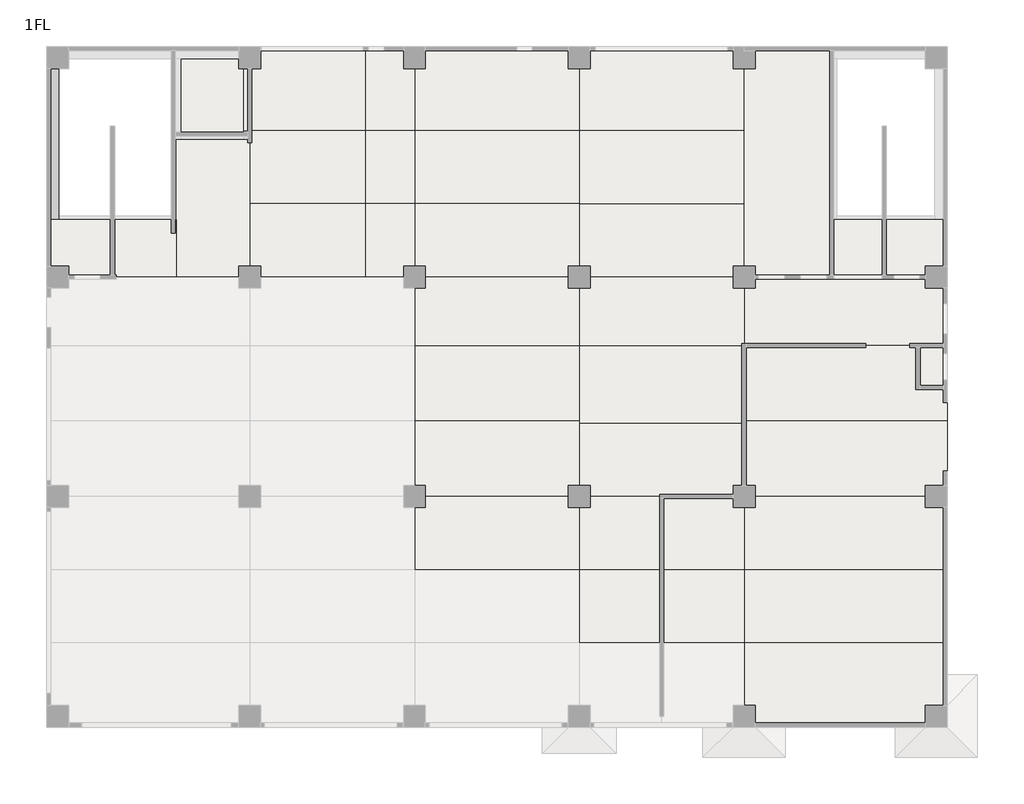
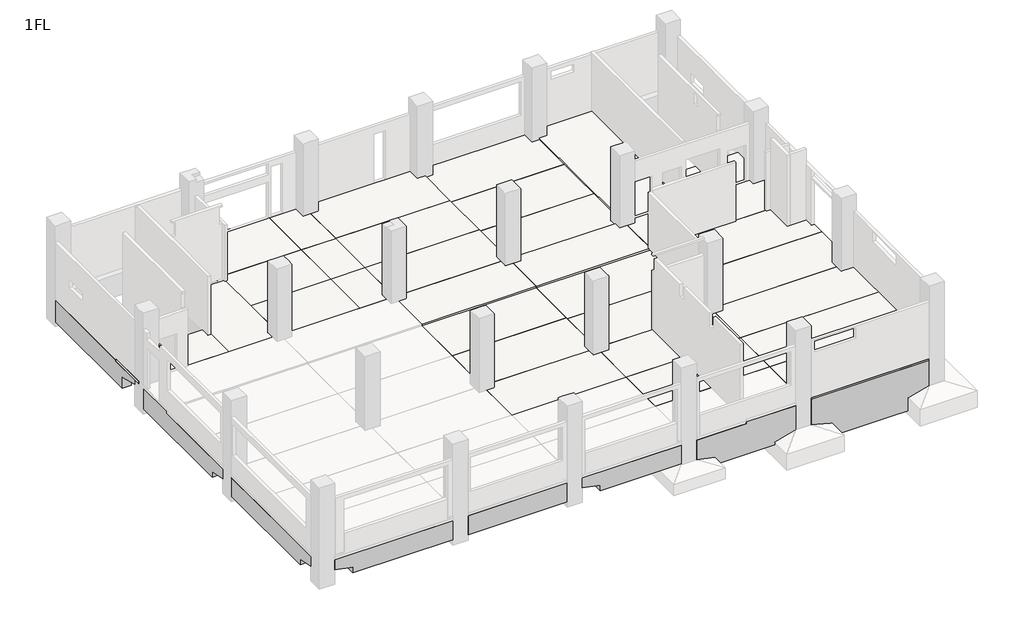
# One storey, part 2 of 4: 41 slabs, 8 beams.
"""IFC4 building model written with IfcOpenShell, lengths in millimetres."""

from ifc_helpers import new_model, si_unit, frame, origin, place, context, project, spatial, polyline, outline, extrude, faceted_brep, element, save

model = new_model("IFC4")

# Units and contexts
model_context = context("Model", 3, world=origin())
ifc_project = project(units=[si_unit("LENGTHUNIT", "METRE", prefix="MILLI")], contexts=[model_context])

# Site, building, storey
site = spatial("IfcSite", under=ifc_project)
building = spatial("IfcBuilding", under=site)
storey = spatial("IfcBuildingStorey", under=building, Name="1FL", Elevation=0.0)

# Beams
placement = place(None, origin())
element("IfcBeam", 1, ObjectType="RC_B : FG1", at=placement, inside=storey, context=model_context, shape_type="SweptSolid", body=[
    extrude(outline(polyline([(-1300.0, 6600.0), (-250.0, 6600.0), (-250.0, 400.0), (-800.0, 400.0), (-1000.0, 1350.0), (-1300.0, 1350.0), (-1300.0, 6600.0)])), frame((0.0, -400.0, 0.0), z_axis=(0.0, 1.0, 0.0), x_axis=(0.0, 0.0, 1.0)), (0.0, 0.0, 1.0), 450.0),
])
element("IfcBeam", 2, ObjectType="RC_B : FG1", at=placement, inside=storey, context=model_context, shape_type="SweptSolid", body=[
    extrude(outline(polyline([(7400.0, -400.0), (7400.0, 50.0), (12600.0, 50.0), (12600.0, -400.0), (7400.0, -400.0)])), frame((0.0, 0.0, -1300.0), z_axis=(0.0, 0.0, 1.0), x_axis=(1.0, 0.0, 0.0)), (0.0, 0.0, 1.0), 1050.0),
])
element("IfcBeam", 3, ObjectType="RC_B : FG1", at=placement, inside=storey, context=model_context, shape_type="SweptSolid", body=[
    extrude(outline(polyline([(-1300.0, 18600.0), (-250.0, 18600.0), (-250.0, 13400.0), (-800.0, 13400.0), (-1000.0, 14350.0), (-1300.0, 14350.0), (-1300.0, 18600.0)])), frame((0.0, -400.0, 0.0), z_axis=(0.0, 1.0, 0.0), x_axis=(0.0, 0.0, 1.0)), (0.0, 0.0, 1.0), 450.0),
])
element("IfcBeam", 4, ObjectType="RC_B : FG11", at=placement, inside=storey, context=model_context, shape_type="Brep", body=[
    faceted_brep([(-400.0, 7600.0, -250.0), (-400.0, 7600.0, -1300.0), (-400.0, 1350.0, -1300.0), (-400.0, 1350.0, -1000.0), (-400.0, 400.0, -800.0), (-400.0, 400.0, -250.0), (-400.0, 2664.0, -250.0), (-400.0, 5328.0, -250.0), (50.0, 7600.0, -1300.0), (50.0, 1350.0, -1300.0), (50.0, 7600.0, -250.0), (50.0, 5505.0, -250.0), (50.0, 5155.0, -250.0), (50.0, 2835.0, -250.0), (50.0, 2485.0, -250.0), (50.0, 400.0, -250.0), (50.0, 400.0, -800.0), (50.0, 1350.0, -1000.0)], [[[0, 1, 2, 3, 4, 5, 6, 7]], [[1, 8, 9, 2]], [[10, 11, 12, 13, 14, 15, 16, 17, 9, 8]], [[15, 5, 4, 16]], [[0, 10, 8, 1]], [[5, 15, 14, 13, 12, 11, 10, 0, 7, 6]], [[17, 3, 2, 9]], [[3, 17, 16, 4]]]),
])
element("IfcBeam", 5, ObjectType="RC_B : FG11", at=placement, inside=storey, context=model_context, shape_type="Brep", body=[
    faceted_brep([(-400.0, 15600.0, -160.0), (-400.0, 15600.0, -1300.0), (-400.0, 9350.0, -1300.0), (-400.0, 9350.0, -1000.0), (-400.0, 8400.0, -800.0), (-400.0, 8400.0, -250.0), (-400.0, 10748.0, -250.0), (-400.0, 13496.0, -250.0), (-400.0, 13496.0, -160.0), (50.0, 15600.0, -1300.0), (50.0, 9350.0, -1300.0), (50.0, 13496.0, -250.0), (50.0, 13325.0, -250.0), (50.0, 10925.0, -250.0), (50.0, 10575.0, -250.0), (50.0, 8400.0, -250.0), (50.0, 8400.0, -800.0), (50.0, 9350.0, -1000.0), (50.0, 15600.0, -160.0), (50.0, 13675.0, -160.0), (50.0, 13496.0, -160.0)], [[[0, 1, 2, 3, 4, 5, 6, 7, 8]], [[1, 9, 10, 2]], [[11, 12, 13, 14, 15, 16, 17, 10, 9, 18, 19, 20]], [[15, 5, 4, 16]], [[0, 18, 9, 1]], [[5, 15, 14, 13, 12, 11, 7, 6]], [[7, 11, 20, 8]], [[20, 19, 18, 0, 8]], [[17, 3, 2, 10]], [[3, 17, 16, 4]]]),
])
element("IfcBeam", 6, ObjectType="RC_B : FG11", at=placement, inside=storey, context=model_context, shape_type="Brep", body=[
    faceted_brep([(-400.0, 23600.0, -100.0), (-400.0, 23600.0, -1300.0), (-400.0, 17500.0, -1300.0), (-400.0, 17500.0, -700.0), (-400.0, 16400.0, -400.0), (-400.0, 16400.0, -160.0), (-400.0, 18100.0, -160.0), (-400.0, 18100.0, -100.0), (50.0, 23600.0, -1300.0), (50.0, 17500.0, -1300.0), (50.0, 23600.0, -100.0), (50.0, 18225.0, -100.0), (50.0, 18100.0, -100.0), (50.0, 18100.0, -160.0), (50.0, 17975.0, -160.0), (50.0, 16400.0, -160.0), (50.0, 16400.0, -400.0), (50.0, 17500.0, -700.0), (-250.0, 23600.0, -100.0), (-250.0, 18100.0, -100.0)], [[[0, 1, 2, 3, 4, 5, 6, 7]], [[1, 8, 9, 2]], [[8, 10, 11, 12, 13, 14, 15, 16, 17, 9]], [[10, 18, 0, 7, 19, 12, 11]], [[15, 5, 4, 16]], [[1, 0, 18, 10, 8]], [[13, 6, 5, 15, 14]], [[6, 13, 12, 19, 7]], [[17, 3, 2, 9]], [[3, 17, 16, 4]]]),
])
element("IfcBeam", 7, ObjectType="RC_B : FG3", at=placement, inside=storey, context=model_context, shape_type="Brep", body=[
    faceted_brep([(22075.0, 50.0, -160.0), (24600.0, 50.0, -160.0), (24600.0, 50.0, -1750.0), (20350.0, 50.0, -1750.0), (20350.0, 50.0, -1550.0), (19400.0, 50.0, -1350.0), (19400.0, 50.0, -250.0), (22075.0, 50.0, -250.0), (24600.0, 0.0, -1950.0), (24600.0, -400.0, -1950.0), (20350.0, -400.0, -1950.0), (20350.0, 0.0, -1950.0), (22000.0, -400.0, -250.0), (19400.0, -400.0, -250.0), (19400.0, -400.0, -1350.0), (20350.0, -400.0, -1550.0), (24600.0, -400.0, -160.0), (22000.0, -400.0, -160.0), (24600.0, 0.0, -1750.0), (22000.0, 0.0, -250.0), (22075.0, 0.0, -250.0), (22000.0, 0.0, -160.0), (22075.0, 0.0, -160.0), (20350.0, 0.0, -1750.0)], [[[0, 1, 2, 3, 4, 5, 6, 7]], [[8, 9, 10, 11]], [[12, 13, 14, 15, 10, 9, 16, 17]], [[13, 6, 5, 14]], [[1, 16, 9, 8, 18, 2]], [[6, 13, 12, 19, 20, 7]], [[19, 12, 17, 21]], [[7, 20, 22, 0]], [[20, 19, 21, 22]], [[2, 18, 23, 3]], [[18, 8, 11, 23]], [[1, 0, 22, 21, 17, 16]], [[15, 4, 3, 23, 11, 10]], [[4, 15, 14, 5]]]),
])
element("IfcBeam", 8, ObjectType="RC_B : FG4", at=placement, inside=storey, context=model_context, shape_type="Brep", body=[
    faceted_brep([(25400.0, 50.0, -100.0), (31600.0, 50.0, -100.0), (31600.0, 50.0, -160.0), (31600.0, 50.0, -2300.0), (25400.0, 50.0, -2300.0), (25400.0, 50.0, -160.0), (31600.0, -400.0, -2500.0), (25400.0, -400.0, -2500.0), (25400.0, 0.0, -2500.0), (31600.0, 0.0, -2500.0), (25400.0, -400.0, -100.0), (31600.0, -400.0, -100.0), (25400.0, 0.0, -2300.0), (31600.0, 0.0, -2300.0)], [[[0, 1, 2, 3, 4, 5]], [[6, 7, 8, 9]], [[10, 7, 6, 11]], [[0, 10, 11, 1]], [[7, 10, 0, 5, 4, 12, 8]], [[11, 6, 9, 13, 3, 2, 1]], [[13, 12, 4, 3]], [[12, 13, 9, 8]]]),
])

# Slabs
element("IfcSlab", 9, ObjectType="FS1", at=placement, inside=storey, context=model_context, shape_type="Brep", body=[
    faceted_brep([(19000.0, 0.0, -1950.0), (19000.0, 400.0, -1950.0), (19000.0, 1350.0, -1950.0), (19000.0, 7600.0, -1950.0), (19000.0, 8000.0, -1950.0), (19400.0, 8000.0, -1950.0), (20650.0, 8000.0, -1950.0), (24600.0, 8000.0, -1950.0), (24775.0, 8000.0, -1950.0), (24775.0, 0.0, -1950.0), (24600.0, 0.0, -1950.0), (20350.0, 0.0, -1950.0), (19400.0, 0.0, -1950.0), (19000.0, 8000.0, -1750.0), (19000.0, 7600.0, -1750.0), (19000.0, 1350.0, -1750.0), (19000.0, 400.0, -1750.0), (19000.0, 0.0, -1750.0), (19400.0, 0.0, -1750.0), (20350.0, 0.0, -1750.0), (24600.0, 0.0, -1750.0), (24775.0, 0.0, -1750.0), (24775.0, 8000.0, -1750.0), (24600.0, 8000.0, -1750.0), (20650.0, 8000.0, -1750.0), (19400.0, 8000.0, -1750.0)], [[[0, 1, 2, 3, 4, 5, 6, 7, 8, 9, 10, 11, 12]], [[13, 14, 15, 16, 17, 18, 19, 20, 21, 22, 23, 24, 25]], [[17, 0, 12, 11, 10, 9, 21, 20, 19, 18]], [[4, 3, 2, 1, 0, 17, 16, 15, 14, 13]], [[4, 13, 25, 24, 23, 22, 8, 7, 6, 5]], [[9, 8, 22, 21]]]),
])
element("IfcSlab", 10, ObjectType="FS1", at=placement, inside=storey, context=model_context, shape_type="Brep", body=[
    faceted_brep([(13000.0, 16000.0, -1950.0), (12600.0, 16000.0, -1950.0), (7400.0, 16000.0, -1950.0), (7000.0, 16000.0, -1950.0), (7000.0, 16400.0, -1950.0), (7000.0, 17650.0, -1950.0), (7000.0, 22500.0, -1950.0), (7000.0, 24000.0, -1950.0), (8500.0, 24000.0, -1950.0), (11650.0, 24000.0, -1950.0), (12600.0, 24000.0, -1950.0), (13000.0, 24000.0, -1950.0), (13000.0, 23600.0, -1950.0), (13000.0, 17650.0, -1950.0), (13000.0, 16000.0, -1750.0), (13000.0, 17650.0, -1750.0), (13000.0, 23600.0, -1750.0), (13000.0, 24000.0, -1750.0), (12600.0, 24000.0, -1750.0), (11650.0, 24000.0, -1750.0), (8500.0, 24000.0, -1750.0), (7000.0, 24000.0, -1750.0), (7000.0, 22500.0, -1750.0), (7000.0, 17650.0, -1750.0), (7000.0, 16400.0, -1750.0), (7000.0, 16000.0, -1750.0), (7400.0, 16000.0, -1750.0), (12600.0, 16000.0, -1750.0)], [[[0, 1, 2, 3, 4, 5, 6, 7, 8, 9, 10, 11, 12, 13]], [[14, 15, 16, 17, 18, 19, 20, 21, 22, 23, 24, 25, 26, 27]], [[3, 2, 1, 0, 14, 27, 26, 25]], [[7, 6, 5, 4, 3, 25, 24, 23, 22, 21]], [[11, 10, 9, 8, 7, 21, 20, 19, 18, 17]], [[0, 13, 12, 11, 17, 16, 15, 14]]]),
])
element("IfcSlab", 11, ObjectType="FS1", at=placement, inside=storey, context=model_context, shape_type="Brep", body=[
    faceted_brep([(19000.0, 23950.0, -1950.0), (19000.0, 16225.0, -1950.0), (18600.0, 16225.0, -1950.0), (13400.0, 16225.0, -1950.0), (13225.0, 16225.0, -1950.0), (13225.0, 17650.0, -1950.0), (13225.0, 23600.0, -1950.0), (13225.0, 23950.0, -1950.0), (13400.0, 23950.0, -1950.0), (18600.0, 23950.0, -1950.0), (19000.0, 16225.0, -1750.0), (19000.0, 23950.0, -1750.0), (13225.0, 23950.0, -1750.0), (13225.0, 16225.0, -1750.0)], [[[0, 1, 2, 3, 4, 5, 6, 7, 8, 9]], [[10, 11, 12, 13]], [[10, 1, 0, 11]], [[1, 10, 13, 4, 3, 2]], [[11, 0, 9, 8, 7, 12]], [[7, 6, 5, 4, 13, 12]]]),
])
element("IfcSlab", 12, ObjectType="FS1", at=placement, inside=storey, context=model_context, shape_type="Brep", body=[
    faceted_brep([(25000.0, 16000.0, -1950.0), (24600.0, 16000.0, -1950.0), (20650.0, 16000.0, -1950.0), (19400.0, 16000.0, -1950.0), (19000.0, 16000.0, -1950.0), (19000.0, 16225.0, -1950.0), (19000.0, 23950.0, -1950.0), (19000.0, 24000.0, -1950.0), (19400.0, 24000.0, -1950.0), (24600.0, 24000.0, -1950.0), (25000.0, 24000.0, -1950.0), (25000.0, 16000.0, -1750.0), (25000.0, 24000.0, -1750.0), (24600.0, 24000.0, -1750.0), (19400.0, 24000.0, -1750.0), (19000.0, 24000.0, -1750.0), (19000.0, 23950.0, -1750.0), (19000.0, 16225.0, -1750.0), (19000.0, 16000.0, -1750.0), (19400.0, 16000.0, -1750.0), (20650.0, 16000.0, -1750.0), (24600.0, 16000.0, -1750.0)], [[[0, 1, 2, 3, 4, 5, 6, 7, 8, 9, 10]], [[11, 12, 13, 14, 15, 16, 17, 18, 19, 20, 21]], [[4, 3, 2, 1, 0, 11, 21, 20, 19, 18]], [[7, 6, 5, 4, 18, 17, 16, 15]], [[10, 9, 8, 7, 15, 14, 13, 12]], [[0, 10, 12, 11]]]),
])
element("IfcSlab", 13, ObjectType="FS1", at=placement, inside=storey, context=model_context, shape_type="Brep", body=[
    faceted_brep([(32000.0, 0.0, -2500.0), (31600.0, 0.0, -2500.0), (25400.0, 0.0, -2500.0), (24775.0, 0.0, -2500.0), (24775.0, 400.0, -2500.0), (24775.0, 7600.0, -2500.0), (24775.0, 8000.0, -2500.0), (32000.0, 8000.0, -2500.0), (32000.0, 7600.0, -2500.0), (32000.0, 1500.0, -2500.0), (32000.0, 400.0, -2500.0), (32000.0, 0.0, -2300.0), (32000.0, 400.0, -2300.0), (32000.0, 1500.0, -2300.0), (32000.0, 7600.0, -2300.0), (32000.0, 8000.0, -2300.0), (24775.0, 8000.0, -2300.0), (24775.0, 7600.0, -2300.0), (24775.0, 1500.0, -2300.0), (24775.0, 400.0, -2300.0), (24775.0, 0.0, -2300.0), (25400.0, 0.0, -2300.0), (31600.0, 0.0, -2300.0)], [[[0, 1, 2, 3, 4, 5, 6, 7, 8, 9, 10]], [[11, 12, 13, 14, 15, 16, 17, 18, 19, 20, 21, 22]], [[3, 2, 1, 0, 11, 22, 21, 20]], [[6, 5, 4, 3, 20, 19, 18, 17, 16]], [[7, 6, 16, 15]], [[0, 10, 9, 8, 7, 15, 14, 13, 12, 11]]]),
])
element("IfcSlab", 14, ObjectType="FS1", at=placement, inside=storey, context=model_context, shape_type="Brep", body=[
    faceted_brep([(32000.0, 8000.0, -2500.0), (24775.0, 8000.0, -2500.0), (24775.0, 8400.0, -2500.0), (24775.0, 15600.0, -2500.0), (24775.0, 16000.0, -2500.0), (25400.0, 16000.0, -2500.0), (31600.0, 16000.0, -2500.0), (32000.0, 16000.0, -2500.0), (32000.0, 15600.0, -2500.0), (32000.0, 9500.0, -2500.0), (32000.0, 8400.0, -2500.0), (32000.0, 8000.0, -2300.0), (32000.0, 8400.0, -2300.0), (32000.0, 9500.0, -2300.0), (32000.0, 15600.0, -2300.0), (32000.0, 16000.0, -2300.0), (31600.0, 16000.0, -2300.0), (25400.0, 16000.0, -2300.0), (24775.0, 16000.0, -2300.0), (24775.0, 15600.0, -2300.0), (24775.0, 9650.0, -2300.0), (24775.0, 8400.0, -2300.0), (24775.0, 8000.0, -2300.0)], [[[0, 1, 2, 3, 4, 5, 6, 7, 8, 9, 10]], [[11, 12, 13, 14, 15, 16, 17, 18, 19, 20, 21, 22]], [[1, 0, 11, 22]], [[4, 3, 2, 1, 22, 21, 20, 19, 18]], [[7, 6, 5, 4, 18, 17, 16, 15]], [[0, 10, 9, 8, 7, 15, 14, 13, 12, 11]]]),
])
element("IfcSlab", 15, ObjectType="FS1", at=placement, inside=storey, context=model_context, shape_type="Brep", body=[
    faceted_brep([(28374.0, 16000.0, -1950.0), (25400.0, 16000.0, -1950.0), (25000.0, 16000.0, -1950.0), (25000.0, 24000.0, -1950.0), (25400.0, 24000.0, -1950.0), (28374.0, 24000.0, -1950.0), (28374.0, 23950.0, -1950.0), (28374.0, 16225.0, -1950.0), (28374.0, 16000.0, -1750.0), (28374.0, 16225.0, -1750.0), (28374.0, 23950.0, -1750.0), (28374.0, 24000.0, -1750.0), (25400.0, 24000.0, -1750.0), (25000.0, 24000.0, -1750.0), (25000.0, 16000.0, -1750.0), (25400.0, 16000.0, -1750.0)], [[[0, 1, 2, 3, 4, 5, 6, 7]], [[8, 9, 10, 11, 12, 13, 14, 15]], [[2, 1, 0, 8, 15, 14]], [[3, 2, 14, 13]], [[5, 4, 3, 13, 12, 11]], [[0, 7, 6, 5, 11, 10, 9, 8]]]),
])
element("IfcSlab", 16, ObjectType="FS2", at=placement, inside=storey, context=model_context, shape_type="SweptSolid", body=[
    extrude(outline(polyline([(6775.0, 23950.0), (6775.0, 21125.0), (4494.0, 21125.0), (4494.0, 23950.0), (6775.0, 23950.0)])), frame((0.0, 0.0, -1450.0), z_axis=(0.0, 0.0, 1.0), x_axis=(1.0, 0.0, 0.0)), (0.0, 0.0, 1.0), 200.0),
])
element("IfcSlab", 17, ObjectType="S1", at=placement, inside=storey, context=model_context, shape_type="Brep", body=[
    faceted_brep([(25000.0, 2664.0, -160.0), (32400.0, 2664.0, -160.0), (32400.0, 400.0, -160.0), (31950.0, 400.0, -160.0), (31600.0, 400.0, -160.0), (31600.0, 50.0, -160.0), (25400.0, 50.0, -160.0), (25400.0, 400.0, -160.0), (25225.0, 400.0, -160.0), (25000.0, 400.0, -160.0), (32400.0, 2664.0, -10.0), (25000.0, 2664.0, -10.0), (25000.0, 400.0, -10.0), (25400.0, 400.0, -10.0), (25400.0, -250.0, -10.0), (25400.0, -400.0, -10.0), (31600.0, -400.0, -10.0), (31600.0, -250.0, -10.0), (31600.0, 400.0, -10.0), (32250.0, 400.0, -10.0), (32400.0, 400.0, -10.0), (25400.0, -400.0, -100.0), (31600.0, -400.0, -100.0), (25400.0, 50.0, -100.0), (31600.0, 50.0, -100.0)], [[[0, 1, 2, 3, 4, 5, 6, 7, 8, 9]], [[10, 11, 12, 13, 14, 15, 16, 17, 18, 19, 20]], [[16, 15, 21, 22]], [[11, 0, 9, 12]], [[1, 0, 11, 10]], [[1, 10, 20, 2]], [[13, 7, 6, 23, 21, 15, 14]], [[7, 13, 12, 9, 8]], [[4, 18, 17, 16, 22, 24, 5]], [[18, 4, 3, 2, 20, 19]], [[24, 23, 6, 5]], [[23, 24, 22, 21]]]),
])
element("IfcSlab", 18, ObjectType="S1", at=placement, inside=storey, context=model_context, shape_type="Brep", body=[
    faceted_brep([(32400.0, 5328.0, -160.0), (32400.0, 2664.0, -160.0), (25000.0, 2664.0, -160.0), (25000.0, 2667.0, -160.0), (25000.0, 5328.0, -160.0), (32400.0, 5328.0, -10.0), (25000.0, 5328.0, -10.0), (25000.0, 2667.0, -10.0), (25000.0, 2664.0, -10.0), (32400.0, 2664.0, -10.0)], [[[0, 1, 2, 3, 4]], [[5, 6, 7, 8, 9]], [[1, 0, 5, 9]], [[2, 1, 9, 8]], [[4, 3, 2, 8, 7, 6]], [[0, 4, 6, 5]]]),
])
element("IfcSlab", 19, ObjectType="S1", at=placement, inside=storey, context=model_context, shape_type="Brep", body=[
    faceted_brep([(32400.0, 5328.0, -160.0), (25000.0, 5328.0, -160.0), (25000.0, 5333.0, -160.0), (25000.0, 7600.0, -160.0), (25225.0, 7600.0, -160.0), (25400.0, 7600.0, -160.0), (25400.0, 7775.0, -160.0), (25400.0, 8000.0, -160.0), (31600.0, 8000.0, -160.0), (31600.0, 7775.0, -160.0), (31600.0, 7600.0, -160.0), (31950.0, 7600.0, -160.0), (32400.0, 7600.0, -160.0), (25000.0, 5328.0, -10.0), (32400.0, 5328.0, -10.0), (32400.0, 7600.0, -10.0), (32250.0, 7600.0, -10.0), (31600.0, 7600.0, -10.0), (31600.0, 8000.0, -10.0), (25400.0, 8000.0, -10.0), (25400.0, 7600.0, -10.0), (25000.0, 7600.0, -10.0), (25000.0, 5333.0, -10.0)], [[[0, 1, 2, 3, 4, 5, 6, 7, 8, 9, 10, 11, 12]], [[13, 14, 15, 16, 17, 18, 19, 20, 21, 22]], [[14, 0, 12, 15]], [[1, 0, 14, 13]], [[1, 13, 22, 21, 3, 2]], [[7, 19, 18, 8]], [[5, 20, 19, 7, 6]], [[20, 5, 4, 3, 21]], [[10, 17, 16, 15, 12, 11]], [[17, 10, 9, 8, 18]]]),
])
element("IfcSlab", 20, ObjectType="S1", at=placement, inside=storey, context=model_context, shape_type="Brep", body=[
    faceted_brep([(19000.0, 5333.0, -250.0), (22000.0, 5333.0, -250.0), (22000.0, 2667.0, -250.0), (19000.0, 2667.0, -250.0), (19000.0, 5328.0, -250.0), (19000.0, 5333.0, -100.0), (19000.0, 5328.0, -100.0), (19000.0, 2667.0, -100.0), (22000.0, 2667.0, -100.0), (22000.0, 5333.0, -100.0), (22000.0, 5333.0, -160.0), (22000.0, 2667.0, -160.0)], [[[0, 1, 2, 3, 4]], [[5, 6, 7, 8, 9]], [[1, 0, 5, 9, 10]], [[2, 1, 10, 9, 8, 11]], [[3, 2, 11, 8, 7]], [[0, 4, 3, 7, 6, 5]]]),
])
element("IfcSlab", 21, ObjectType="S1", at=placement, inside=storey, context=model_context, shape_type="Brep", body=[
    faceted_brep([(25000.0, 5333.0, -160.0), (25000.0, 5328.0, -160.0), (25000.0, 2667.0, -160.0), (22000.0, 2667.0, -160.0), (22000.0, 5333.0, -160.0), (25000.0, 5333.0, -10.0), (22000.0, 5333.0, -10.0), (22000.0, 2667.0, -10.0), (25000.0, 2667.0, -10.0), (25000.0, 5328.0, -10.0), (22000.0, 2667.0, -100.0), (22000.0, 5333.0, -100.0)], [[[0, 1, 2, 3, 4]], [[5, 6, 7, 8, 9]], [[2, 1, 0, 5, 9, 8]], [[3, 2, 8, 7, 10]], [[4, 3, 10, 7, 6, 11]], [[0, 4, 11, 6, 5]]]),
])
element("IfcSlab", 22, ObjectType="S1", at=placement, inside=storey, context=model_context, shape_type="Brep", body=[
    faceted_brep([(22000.0, 8000.0, -250.0), (22000.0, 5333.0, -250.0), (19000.0, 5333.0, -250.0), (19000.0, 7600.0, -250.0), (19225.0, 7600.0, -250.0), (19400.0, 7600.0, -250.0), (19400.0, 7775.0, -250.0), (19400.0, 8000.0, -250.0), (22000.0, 5333.0, -100.0), (22000.0, 8000.0, -100.0), (19400.0, 8000.0, -100.0), (19400.0, 7600.0, -100.0), (19000.0, 7600.0, -100.0), (19000.0, 5333.0, -100.0), (22000.0, 8000.0, -160.0), (22000.0, 5333.0, -160.0)], [[[0, 1, 2, 3, 4, 5, 6, 7]], [[8, 9, 10, 11, 12, 13]], [[9, 14, 0, 7, 10]], [[1, 0, 14, 9, 8, 15]], [[2, 1, 15, 8, 13]], [[2, 13, 12, 3]], [[5, 11, 10, 7, 6]], [[11, 5, 4, 3, 12]]]),
])
element("IfcSlab", 23, ObjectType="S1", at=placement, inside=storey, context=model_context, shape_type="Brep", body=[
    faceted_brep([(25000.0, 5333.0, -160.0), (22000.0, 5333.0, -160.0), (22000.0, 8000.0, -160.0), (24600.0, 8000.0, -160.0), (24600.0, 7925.0, -160.0), (24600.0, 7775.0, -160.0), (24600.0, 7600.0, -160.0), (24775.0, 7600.0, -160.0), (25000.0, 7600.0, -160.0), (22000.0, 5333.0, -10.0), (25000.0, 5333.0, -10.0), (25000.0, 7600.0, -10.0), (24600.0, 7600.0, -10.0), (24600.0, 8000.0, -10.0), (22000.0, 8000.0, -10.0), (22000.0, 5333.0, -100.0), (22000.0, 8000.0, -100.0), (24600.0, 8000.0, -100.0)], [[[0, 1, 2, 3, 4, 5, 6, 7, 8]], [[9, 10, 11, 12, 13, 14]], [[10, 0, 8, 11]], [[1, 0, 10, 9, 15]], [[2, 1, 15, 9, 14, 16]], [[2, 16, 14, 13, 17, 3]], [[6, 12, 11, 8, 7]], [[12, 6, 5, 4, 3, 17, 13]]]),
])
element("IfcSlab", 24, ObjectType="S1", at=placement, inside=storey, context=model_context, shape_type="Brep", body=[
    faceted_brep([(25000.0, 10748.0, -160.0), (32400.0, 10748.0, -160.0), (32400.0, 8400.0, -160.0), (31950.0, 8400.0, -160.0), (31600.0, 8400.0, -160.0), (31600.0, 8225.0, -160.0), (31600.0, 8000.0, -160.0), (25400.0, 8000.0, -160.0), (25400.0, 8225.0, -160.0), (25400.0, 8400.0, -160.0), (25225.0, 8400.0, -160.0), (25000.0, 8400.0, -160.0), (32400.0, 10748.0, -10.0), (25000.0, 10748.0, -10.0), (25000.0, 8400.0, -10.0), (25400.0, 8400.0, -10.0), (25400.0, 8000.0, -10.0), (31600.0, 8000.0, -10.0), (31600.0, 8400.0, -10.0), (32250.0, 8400.0, -10.0), (32400.0, 8400.0, -10.0), (32400.0, 8930.0, -10.0), (25000.0, 8400.0, -100.0)], [[[0, 1, 2, 3, 4, 5, 6, 7, 8, 9, 10, 11]], [[12, 13, 14, 15, 16, 17, 18, 19, 20, 21]], [[16, 7, 6, 17]], [[13, 0, 11, 22, 14]], [[1, 0, 13, 12]], [[1, 12, 21, 20, 2]], [[15, 9, 8, 7, 16]], [[9, 15, 14, 22, 11, 10]], [[4, 18, 17, 6, 5]], [[18, 4, 3, 2, 20, 19]]]),
])
element("IfcSlab", 25, ObjectType="S1", at=placement, inside=storey, context=model_context, shape_type="Brep", body=[
    faceted_brep([(32400.0, 13496.0, -160.0), (32400.0, 10748.0, -160.0), (25000.0, 10748.0, -160.0), (25000.0, 13496.0, -160.0), (32400.0, 13496.0, -10.0), (25000.0, 13496.0, -10.0), (25000.0, 10748.0, -10.0), (32400.0, 10748.0, -10.0), (32400.0, 11430.0, -10.0)], [[[0, 1, 2, 3]], [[4, 5, 6, 7, 8]], [[1, 0, 4, 8, 7]], [[2, 1, 7, 6]], [[3, 2, 6, 5]], [[0, 3, 5, 4]]]),
])
element("IfcSlab", 26, ObjectType="S2", at=placement, inside=storey, context=model_context, shape_type="Brep", body=[
    faceted_brep([(19000.0, 5328.0, -250.0), (13000.0, 5328.0, -250.0), (13000.0, 7600.0, -250.0), (13225.0, 7600.0, -250.0), (13400.0, 7600.0, -250.0), (13400.0, 7775.0, -250.0), (13400.0, 8000.0, -250.0), (18600.0, 8000.0, -250.0), (18600.0, 7775.0, -250.0), (18600.0, 7600.0, -250.0), (18775.0, 7600.0, -250.0), (19000.0, 7600.0, -250.0), (19000.0, 5333.0, -250.0), (13000.0, 5328.0, -100.0), (19000.0, 5328.0, -100.0), (19000.0, 5333.0, -100.0), (19000.0, 7600.0, -100.0), (18600.0, 7600.0, -100.0), (18600.0, 8000.0, -100.0), (13400.0, 8000.0, -100.0), (13400.0, 7600.0, -100.0), (13000.0, 7600.0, -100.0)], [[[0, 1, 2, 3, 4, 5, 6, 7, 8, 9, 10, 11, 12]], [[13, 14, 15, 16, 17, 18, 19, 20, 21]], [[14, 0, 12, 11, 16, 15]], [[1, 0, 14, 13]], [[1, 13, 21, 2]], [[6, 19, 18, 7]], [[4, 20, 19, 6, 5]], [[20, 4, 3, 2, 21]], [[9, 17, 16, 11, 10]], [[17, 9, 8, 7, 18]]]),
])
element("IfcSlab", 27, ObjectType="S2", at=placement, inside=storey, context=model_context, shape_type="Brep", body=[
    faceted_brep([(19000.0, 13496.0, -160.0), (18775.0, 13496.0, -160.0), (13225.0, 13496.0, -160.0), (13000.0, 13496.0, -160.0), (13000.0, 15600.0, -160.0), (13225.0, 15600.0, -160.0), (13400.0, 15600.0, -160.0), (13400.0, 15775.0, -160.0), (13400.0, 16000.0, -160.0), (18600.0, 16000.0, -160.0), (18600.0, 15775.0, -160.0), (18600.0, 15600.0, -160.0), (18775.0, 15600.0, -160.0), (19000.0, 15600.0, -160.0), (19000.0, 13500.0, -160.0), (13000.0, 13496.0, -10.0), (19000.0, 13496.0, -10.0), (19000.0, 13500.0, -10.0), (19000.0, 15600.0, -10.0), (18600.0, 15600.0, -10.0), (18600.0, 16000.0, -10.0), (13400.0, 16000.0, -10.0), (13400.0, 15600.0, -10.0), (13000.0, 15600.0, -10.0), (19000.0, 13496.0, -100.0), (13000.0, 13496.0, -100.0)], [[[0, 1, 2, 3, 4, 5, 6, 7, 8, 9, 10, 11, 12, 13, 14]], [[15, 16, 17, 18, 19, 20, 21, 22, 23]], [[16, 24, 0, 14, 13, 18, 17]], [[3, 2, 1, 0, 24, 16, 15, 25]], [[3, 25, 15, 23, 4]], [[8, 21, 20, 9]], [[6, 22, 21, 8, 7]], [[22, 6, 5, 4, 23]], [[11, 19, 18, 13, 12]], [[19, 11, 10, 9, 20]]]),
])
element("IfcSlab", 28, ObjectType="S2", at=placement, inside=storey, context=model_context, shape_type="Brep", body=[
    faceted_brep([(32400.0, 13496.0, -160.0), (25000.0, 13496.0, -160.0), (25000.0, 13500.0, -160.0), (25000.0, 15600.0, -160.0), (25225.0, 15600.0, -160.0), (25400.0, 15600.0, -160.0), (25400.0, 15775.0, -160.0), (25400.0, 16000.0, -160.0), (28199.0, 16000.0, -160.0), (31600.0, 16000.0, -160.0), (31600.0, 15775.0, -160.0), (31600.0, 15600.0, -160.0), (31950.0, 15600.0, -160.0), (32400.0, 15600.0, -160.0), (25000.0, 13496.0, -10.0), (32400.0, 13496.0, -10.0), (32400.0, 15600.0, -10.0), (32250.0, 15600.0, -10.0), (31600.0, 15600.0, -10.0), (31600.0, 16000.0, -10.0), (28199.0, 16000.0, -10.0), (25400.0, 16000.0, -10.0), (25400.0, 15600.0, -10.0), (25000.0, 15600.0, -10.0)], [[[0, 1, 2, 3, 4, 5, 6, 7, 8, 9, 10, 11, 12, 13]], [[14, 15, 16, 17, 18, 19, 20, 21, 22, 23]], [[15, 0, 13, 16]], [[1, 0, 15, 14]], [[1, 14, 23, 3, 2]], [[7, 21, 20, 19, 9, 8]], [[5, 22, 21, 7, 6]], [[22, 5, 4, 3, 23]], [[11, 18, 17, 16, 13, 12]], [[18, 11, 10, 9, 19]]]),
])
element("IfcSlab", 29, ObjectType="S2", at=placement, inside=storey, context=model_context, shape_type="Brep", body=[
    faceted_brep([(19000.0, 18664.0, -250.0), (25000.0, 18664.0, -250.0), (25000.0, 16400.0, -250.0), (24775.0, 16400.0, -250.0), (24600.0, 16400.0, -250.0), (24600.0, 16225.0, -250.0), (24600.0, 16000.0, -250.0), (19400.0, 16000.0, -250.0), (19400.0, 16225.0, -250.0), (19400.0, 16400.0, -250.0), (19225.0, 16400.0, -250.0), (19000.0, 16400.0, -250.0), (25000.0, 18664.0, -100.0), (19000.0, 18664.0, -100.0), (19000.0, 16400.0, -100.0), (19400.0, 16400.0, -100.0), (19400.0, 16000.0, -100.0), (24600.0, 16000.0, -100.0), (24600.0, 16400.0, -100.0), (25000.0, 16400.0, -100.0), (19400.0, 16000.0, -160.0), (24600.0, 16000.0, -160.0), (19000.0, 16400.0, -160.0), (25000.0, 16400.0, -160.0)], [[[0, 1, 2, 3, 4, 5, 6, 7, 8, 9, 10, 11]], [[12, 13, 14, 15, 16, 17, 18, 19]], [[16, 20, 7, 6, 21, 17]], [[13, 0, 11, 22, 14]], [[1, 0, 13, 12]], [[1, 12, 19, 23, 2]], [[15, 9, 8, 7, 20, 16]], [[9, 15, 14, 22, 11, 10]], [[4, 18, 17, 21, 6, 5]], [[18, 4, 3, 2, 23, 19]]]),
])
element("IfcSlab", 30, ObjectType="S2", at=placement, inside=storey, context=model_context, shape_type="Brep", body=[
    faceted_brep([(25000.0, 21328.0, -250.0), (25000.0, 18664.0, -250.0), (19000.0, 18664.0, -250.0), (19000.0, 21165.0, -250.0), (19000.0, 21328.0, -250.0), (25000.0, 21328.0, -100.0), (19000.0, 21328.0, -100.0), (19000.0, 18664.0, -100.0), (25000.0, 18664.0, -100.0)], [[[0, 1, 2, 3, 4]], [[5, 6, 7, 8]], [[1, 0, 5, 8]], [[2, 1, 8, 7]], [[4, 3, 2, 7, 6]], [[0, 4, 6, 5]]]),
])
element("IfcSlab", 31, ObjectType="S2", at=placement, inside=storey, context=model_context, shape_type="Brep", body=[
    faceted_brep([(25000.0, 24400.0, -250.0), (25000.0, 23600.0, -250.0), (25000.0, 21328.0, -250.0), (19000.0, 21328.0, -250.0), (19000.0, 21515.0, -250.0), (19000.0, 23600.0, -250.0), (19000.0, 24400.0, -250.0), (19400.0, 24400.0, -250.0), (24600.0, 24400.0, -250.0), (25000.0, 24400.0, -100.0), (24600.0, 24400.0, -100.0), (19400.0, 24400.0, -100.0), (19000.0, 24400.0, -100.0), (19000.0, 23600.0, -100.0), (19000.0, 21515.0, -100.0), (19000.0, 21340.0, -100.0), (19000.0, 21328.0, -100.0), (25000.0, 21328.0, -100.0), (25000.0, 23600.0, -100.0), (25000.0, 24400.0, -160.0), (19000.0, 24400.0, -160.0)], [[[0, 1, 2, 3, 4, 5, 6, 7, 8]], [[9, 10, 11, 12, 13, 14, 15, 16, 17, 18]], [[2, 1, 0, 19, 9, 18, 17]], [[3, 2, 17, 16]], [[6, 5, 4, 3, 16, 15, 14, 13, 12, 20]], [[0, 8, 7, 6, 20, 12, 11, 10, 9, 19]]]),
])
element("IfcSlab", 32, ObjectType="S2", at=placement, inside=storey, context=model_context, shape_type="Brep", body=[
    faceted_brep([(25000.0, 24400.0, -160.0), (25400.0, 24400.0, -160.0), (28199.0, 24400.0, -160.0), (28199.0, 23950.0, -160.0), (28199.0, 18100.0, -160.0), (28199.0, 16000.0, -160.0), (25400.0, 16000.0, -160.0), (25400.0, 16225.0, -160.0), (25400.0, 16400.0, -160.0), (25225.0, 16400.0, -160.0), (25000.0, 16400.0, -160.0), (25000.0, 23600.0, -160.0), (28199.0, 24400.0, -10.0), (25400.0, 24400.0, -10.0), (25000.0, 24400.0, -10.0), (25000.0, 24250.0, -10.0), (25000.0, 23600.0, -10.0), (25000.0, 16400.0, -10.0), (25400.0, 16400.0, -10.0), (25400.0, 16000.0, -10.0), (28199.0, 16000.0, -10.0), (28199.0, 16075.0, -10.0), (28199.0, 18100.0, -10.0), (28199.0, 24250.0, -10.0), (25000.0, 24400.0, -100.0), (25000.0, 16400.0, -100.0), (28199.0, 24400.0, -100.0)], [[[0, 1, 2, 3, 4, 5, 6, 7, 8, 9, 10, 11]], [[12, 13, 14, 15, 16, 17, 18, 19, 20, 21, 22, 23]], [[5, 20, 19, 6]], [[14, 24, 0, 11, 10, 25, 17, 16, 15]], [[2, 1, 0, 24, 14, 13, 12, 26]], [[5, 4, 3, 2, 26, 12, 23, 22, 21, 20]], [[18, 8, 7, 6, 19]], [[8, 18, 17, 25, 10, 9]]]),
])
element("IfcSlab", 33, ObjectType="S2", at=placement, inside=storey, context=model_context, shape_type="Brep", body=[
    faceted_brep([(13000.0, 10748.0, -250.0), (19000.0, 10748.0, -250.0), (19000.0, 10667.0, -250.0), (19000.0, 8400.0, -250.0), (18775.0, 8400.0, -250.0), (18600.0, 8400.0, -250.0), (18600.0, 8225.0, -250.0), (18600.0, 8000.0, -250.0), (13400.0, 8000.0, -250.0), (13400.0, 8225.0, -250.0), (13400.0, 8400.0, -250.0), (13225.0, 8400.0, -250.0), (13000.0, 8400.0, -250.0), (19000.0, 10748.0, -100.0), (13000.0, 10748.0, -100.0), (13000.0, 8400.0, -100.0), (13400.0, 8400.0, -100.0), (13400.0, 8000.0, -100.0), (18600.0, 8000.0, -100.0), (18600.0, 8400.0, -100.0), (19000.0, 8400.0, -100.0), (19000.0, 10667.0, -100.0)], [[[0, 1, 2, 3, 4, 5, 6, 7, 8, 9, 10, 11, 12]], [[13, 14, 15, 16, 17, 18, 19, 20, 21]], [[17, 8, 7, 18]], [[14, 0, 12, 15]], [[1, 0, 14, 13]], [[1, 13, 21, 20, 3, 2]], [[16, 10, 9, 8, 17]], [[10, 16, 15, 12, 11]], [[5, 19, 18, 7, 6]], [[19, 5, 4, 3, 20]]]),
])
element("IfcSlab", 34, ObjectType="S2", at=placement, inside=storey, context=model_context, shape_type="Brep", body=[
    faceted_brep([(19000.0, 13496.0, -250.0), (19000.0, 10748.0, -250.0), (13000.0, 10748.0, -250.0), (13000.0, 13496.0, -250.0), (13225.0, 13496.0, -250.0), (18775.0, 13496.0, -250.0), (19000.0, 13496.0, -100.0), (13000.0, 13496.0, -100.0), (13000.0, 10748.0, -100.0), (19000.0, 10748.0, -100.0), (19000.0, 13496.0, -160.0), (13000.0, 13496.0, -160.0)], [[[0, 1, 2, 3, 4, 5]], [[6, 7, 8, 9]], [[1, 0, 10, 6, 9]], [[2, 1, 9, 8]], [[3, 2, 8, 7, 11]], [[0, 5, 4, 3, 11, 7, 6, 10]]]),
])
element("IfcSlab", 35, ObjectType="S2", at=placement, inside=storey, context=model_context, shape_type="Brep", body=[
    faceted_brep([(19000.0, 10667.0, -250.0), (25000.0, 10667.0, -250.0), (25000.0, 8400.0, -250.0), (25000.0, 8000.0, -250.0), (24600.0, 8000.0, -250.0), (22000.0, 8000.0, -250.0), (19400.0, 8000.0, -250.0), (19400.0, 8225.0, -250.0), (19400.0, 8400.0, -250.0), (19225.0, 8400.0, -250.0), (19000.0, 8400.0, -250.0), (25000.0, 10667.0, -100.0), (19000.0, 10667.0, -100.0), (19000.0, 8400.0, -100.0), (19400.0, 8400.0, -100.0), (19400.0, 8000.0, -100.0), (22000.0, 8000.0, -100.0), (24600.0, 8000.0, -100.0), (25000.0, 8000.0, -100.0), (25000.0, 8400.0, -100.0)], [[[0, 1, 2, 3, 4, 5, 6, 7, 8, 9, 10]], [[11, 12, 13, 14, 15, 16, 17, 18, 19]], [[3, 18, 17, 16, 15, 6, 5, 4]], [[12, 0, 10, 13]], [[1, 0, 12, 11]], [[3, 2, 1, 11, 19, 18]], [[14, 8, 7, 6, 15]], [[8, 14, 13, 10, 9]]]),
])
element("IfcSlab", 36, ObjectType="S2", at=placement, inside=storey, context=model_context, shape_type="Brep", body=[
    faceted_brep([(19000.0, 13500.0, -250.0), (19225.0, 13500.0, -250.0), (24775.0, 13500.0, -250.0), (25000.0, 13500.0, -250.0), (25000.0, 10667.0, -250.0), (19000.0, 10667.0, -250.0), (19000.0, 10748.0, -250.0), (19000.0, 13496.0, -250.0), (19000.0, 13500.0, -100.0), (19000.0, 13496.0, -100.0), (19000.0, 10748.0, -100.0), (19000.0, 10667.0, -100.0), (25000.0, 10667.0, -100.0), (25000.0, 13500.0, -100.0), (19000.0, 13500.0, -160.0), (25000.0, 13500.0, -160.0)], [[[0, 1, 2, 3, 4, 5, 6, 7]], [[8, 9, 10, 11, 12, 13]], [[3, 2, 1, 0, 14, 8, 13, 15]], [[4, 3, 15, 13, 12]], [[5, 4, 12, 11]], [[0, 7, 6, 5, 11, 10, 9, 8, 14]]]),
])
element("IfcSlab", 37, ObjectType="S2", at=placement, inside=storey, context=model_context, shape_type="Brep", body=[
    faceted_brep([(25000.0, 16000.0, -160.0), (25000.0, 15600.0, -160.0), (25000.0, 13500.0, -160.0), (24775.0, 13500.0, -160.0), (19225.0, 13500.0, -160.0), (19000.0, 13500.0, -160.0), (19000.0, 15600.0, -160.0), (19225.0, 15600.0, -160.0), (19400.0, 15600.0, -160.0), (19400.0, 15775.0, -160.0), (19400.0, 16000.0, -160.0), (24600.0, 16000.0, -160.0), (25000.0, 13500.0, -10.0), (25000.0, 15600.0, -10.0), (25000.0, 16000.0, -10.0), (24600.0, 16000.0, -10.0), (19400.0, 16000.0, -10.0), (19400.0, 15600.0, -10.0), (19000.0, 15600.0, -10.0), (19000.0, 13500.0, -10.0), (19400.0, 16000.0, -100.0)], [[[0, 1, 2, 3, 4, 5, 6, 7, 8, 9, 10, 11]], [[12, 13, 14, 15, 16, 17, 18, 19]], [[14, 0, 11, 10, 20, 16, 15]], [[2, 1, 0, 14, 13, 12]], [[5, 4, 3, 2, 12, 19]], [[5, 19, 18, 6]], [[8, 17, 16, 20, 10, 9]], [[17, 8, 7, 6, 18]]]),
])
element("IfcSlab", 38, ObjectType="S2", at=placement, inside=storey, context=model_context, shape_type="Brep", body=[
    faceted_brep([(-400.0, 16000.0, -160.0), (-400.0, 16400.0, -160.0), (-400.0, 18100.0, -160.0), (50.0, 18100.0, -160.0), (4144.0, 18100.0, -160.0), (4144.0, 17975.0, -160.0), (4144.0, 16000.0, -160.0), (-400.0, 16000.0, -10.0), (4319.0, 16000.0, -10.0), (4319.0, 18100.0, -10.0), (-250.0, 18100.0, -10.0), (-400.0, 18100.0, -10.0), (-400.0, 16400.0, -10.0), (4144.0, 16000.0, -100.0), (4319.0, 16000.0, -100.0), (-400.0, 18100.0, -100.0), (4319.0, 18100.0, -100.0), (4144.0, 18100.0, -100.0), (4144.0, 16225.0, -100.0)], [[[0, 1, 2, 3, 4, 5, 6]], [[7, 8, 9, 10, 11, 12]], [[8, 7, 0, 6, 13, 14]], [[2, 1, 0, 7, 12, 11, 15]], [[11, 10, 9, 16, 17, 4, 3, 2, 15]], [[9, 8, 14, 16]], [[17, 18, 13, 6, 5, 4]], [[13, 18, 17, 16, 14]]]),
])
element("IfcSlab", 39, ObjectType="S2", at=placement, inside=storey, context=model_context, shape_type="Brep", body=[
    faceted_brep([(6600.0, 16400.0, -160.0), (6600.0, 16225.0, -160.0), (6600.0, 16000.0, -160.0), (4494.0, 16000.0, -160.0), (4494.0, 20875.0, -160.0), (7000.0, 20875.0, -160.0), (7000.0, 18667.0, -160.0), (7000.0, 16400.0, -160.0), (6775.0, 16400.0, -160.0), (4319.0, 21000.0, -10.0), (4319.0, 18100.0, -10.0), (4319.0, 16000.0, -10.0), (6600.0, 16000.0, -10.0), (6600.0, 16400.0, -10.0), (7000.0, 16400.0, -10.0), (7000.0, 18667.0, -10.0), (7000.0, 21000.0, -10.0), (4319.0, 16000.0, -100.0), (4494.0, 16000.0, -100.0), (4319.0, 21000.0, -100.0), (4319.0, 18100.0, -100.0), (7000.0, 21000.0, -100.0), (7000.0, 20875.0, -100.0), (4494.0, 16225.0, -100.0), (4494.0, 20875.0, -100.0), (6775.0, 20875.0, -100.0)], [[[0, 1, 2, 3, 4, 5, 6, 7, 8]], [[9, 10, 11, 12, 13, 14, 15, 16]], [[12, 11, 17, 18, 3, 2]], [[11, 10, 9, 19, 20, 17]], [[9, 16, 21, 19]], [[16, 15, 14, 7, 6, 5, 22, 21]], [[0, 13, 12, 2, 1]], [[13, 0, 8, 7, 14]], [[3, 18, 23, 24, 4]], [[24, 25, 22, 5, 4]], [[21, 22, 25, 24, 23, 18, 17, 20, 19]]]),
])
element("IfcSlab", 40, ObjectType="S2", at=placement, inside=storey, context=model_context, shape_type="Brep", body=[
    faceted_brep([(7000.0, 18667.0, -160.0), (11200.0, 18667.0, -160.0), (11200.0, 16000.0, -160.0), (7400.0, 16000.0, -160.0), (7400.0, 16225.0, -160.0), (7400.0, 16400.0, -160.0), (7225.0, 16400.0, -160.0), (7000.0, 16400.0, -160.0), (11200.0, 18667.0, -10.0), (7000.0, 18667.0, -10.0), (7000.0, 16400.0, -10.0), (7400.0, 16400.0, -10.0), (7400.0, 16000.0, -10.0), (11200.0, 16000.0, -10.0)], [[[0, 1, 2, 3, 4, 5, 6, 7]], [[8, 9, 10, 11, 12, 13]], [[2, 13, 12, 3]], [[9, 0, 7, 10]], [[1, 0, 9, 8]], [[2, 1, 8, 13]], [[11, 5, 4, 3, 12]], [[5, 11, 10, 7, 6]]]),
])
element("IfcSlab", 41, ObjectType="S2", at=placement, inside=storey, context=model_context, shape_type="Brep", body=[
    faceted_brep([(11200.0, 16000.0, -160.0), (11200.0, 18667.0, -160.0), (13000.0, 18667.0, -160.0), (13000.0, 16400.0, -160.0), (12775.0, 16400.0, -160.0), (12600.0, 16400.0, -160.0), (12600.0, 16225.0, -160.0), (12600.0, 16000.0, -160.0), (11200.0, 18667.0, -10.0), (11200.0, 16000.0, -10.0), (12600.0, 16000.0, -10.0), (12600.0, 16400.0, -10.0), (13000.0, 16400.0, -10.0), (13000.0, 18667.0, -10.0)], [[[0, 1, 2, 3, 4, 5, 6, 7]], [[8, 9, 10, 11, 12, 13]], [[9, 0, 7, 10]], [[1, 0, 9, 8]], [[2, 1, 8, 13]], [[2, 13, 12, 3]], [[5, 11, 10, 7, 6]], [[11, 5, 4, 3, 12]]]),
])
element("IfcSlab", 42, ObjectType="S2", at=placement, inside=storey, context=model_context, shape_type="Brep", body=[
    faceted_brep([(7000.0, 21333.0, -160.0), (11200.0, 21333.0, -160.0), (11200.0, 18667.0, -160.0), (7000.0, 18667.0, -160.0), (7000.0, 20875.0, -160.0), (7000.0, 21000.0, -160.0), (7000.0, 21333.0, -10.0), (7000.0, 21000.0, -10.0), (7000.0, 18667.0, -10.0), (11200.0, 18667.0, -10.0), (11200.0, 21333.0, -10.0), (7000.0, 21333.0, -100.0)], [[[0, 1, 2, 3, 4, 5]], [[6, 7, 8, 9, 10]], [[1, 0, 11, 6, 10]], [[2, 1, 10, 9]], [[3, 2, 9, 8]], [[0, 5, 4, 3, 8, 7, 6, 11]]]),
])
element("IfcSlab", 43, ObjectType="S2", at=placement, inside=storey, context=model_context, shape_type="Brep", body=[
    faceted_brep([(13000.0, 21333.0, -160.0), (13000.0, 18670.0, -160.0), (13000.0, 18667.0, -160.0), (11200.0, 18667.0, -160.0), (11200.0, 21333.0, -160.0), (13000.0, 21333.0, -10.0), (11200.0, 21333.0, -10.0), (11200.0, 18667.0, -10.0), (13000.0, 18667.0, -10.0), (13000.0, 18670.0, -10.0)], [[[0, 1, 2, 3, 4]], [[5, 6, 7, 8, 9]], [[2, 1, 0, 5, 9, 8]], [[3, 2, 8, 7]], [[4, 3, 7, 6]], [[0, 4, 6, 5]]]),
])
element("IfcSlab", 44, ObjectType="S2", at=placement, inside=storey, context=model_context, shape_type="Brep", body=[
    faceted_brep([(6775.0, 24400.0, -160.0), (7400.0, 24400.0, -160.0), (11200.0, 24400.0, -160.0), (11200.0, 21333.0, -160.0), (7000.0, 21333.0, -160.0), (6775.0, 21333.0, -160.0), (6775.0, 23600.0, -160.0), (6775.0, 24400.0, -10.0), (6775.0, 23600.0, -10.0), (6775.0, 21333.0, -10.0), (7000.0, 21333.0, -10.0), (11200.0, 21333.0, -10.0), (11200.0, 24400.0, -10.0), (7400.0, 24400.0, -10.0), (6775.0, 21333.0, -100.0)], [[[0, 1, 2, 3, 4, 5, 6]], [[7, 8, 9, 10, 11, 12, 13]], [[2, 1, 0, 7, 13, 12]], [[3, 2, 12, 11]], [[5, 4, 3, 11, 10, 9, 14]], [[0, 6, 5, 14, 9, 8, 7]]]),
])
element("IfcSlab", 45, ObjectType="S2", at=placement, inside=storey, context=model_context, shape_type="Brep", body=[
    faceted_brep([(13000.0, 24400.0, -160.0), (13000.0, 21515.0, -160.0), (13000.0, 21340.0, -160.0), (13000.0, 21333.0, -160.0), (11200.0, 21333.0, -160.0), (11200.0, 24400.0, -160.0), (12600.0, 24400.0, -160.0), (13000.0, 24400.0, -10.0), (12600.0, 24400.0, -10.0), (11200.0, 24400.0, -10.0), (11200.0, 21333.0, -10.0), (13000.0, 21333.0, -10.0), (13000.0, 21340.0, -10.0)], [[[0, 1, 2, 3, 4, 5, 6]], [[7, 8, 9, 10, 11, 12]], [[3, 2, 1, 0, 7, 12, 11]], [[4, 3, 11, 10]], [[5, 4, 10, 9]], [[0, 6, 5, 9, 8, 7]]]),
])
element("IfcSlab", 46, ObjectType="S2", at=placement, inside=storey, context=model_context, shape_type="Brep", body=[
    faceted_brep([(13000.0, 18670.0, -160.0), (19000.0, 18670.0, -160.0), (19000.0, 16400.0, -160.0), (19000.0, 16000.0, -160.0), (18600.0, 16000.0, -160.0), (13400.0, 16000.0, -160.0), (13400.0, 16225.0, -160.0), (13400.0, 16400.0, -160.0), (13225.0, 16400.0, -160.0), (13000.0, 16400.0, -160.0), (13000.0, 18667.0, -160.0), (19000.0, 18670.0, -10.0), (13000.0, 18670.0, -10.0), (13000.0, 18667.0, -10.0), (13000.0, 16400.0, -10.0), (13400.0, 16400.0, -10.0), (13400.0, 16000.0, -10.0), (18600.0, 16000.0, -10.0), (19000.0, 16000.0, -10.0), (19000.0, 16400.0, -10.0)], [[[0, 1, 2, 3, 4, 5, 6, 7, 8, 9, 10]], [[11, 12, 13, 14, 15, 16, 17, 18, 19]], [[3, 18, 17, 16, 5, 4]], [[12, 0, 10, 9, 14, 13]], [[1, 0, 12, 11]], [[3, 2, 1, 11, 19, 18]], [[15, 7, 6, 5, 16]], [[7, 15, 14, 9, 8]]]),
])
element("IfcSlab", 47, ObjectType="S2", at=placement, inside=storey, context=model_context, shape_type="Brep", body=[
    faceted_brep([(13000.0, 24400.0, -160.0), (13400.0, 24400.0, -160.0), (18600.0, 24400.0, -160.0), (19000.0, 24400.0, -160.0), (19000.0, 23600.0, -160.0), (19000.0, 21515.0, -160.0), (18775.0, 21515.0, -160.0), (13225.0, 21515.0, -160.0), (13000.0, 21515.0, -160.0), (19000.0, 21340.0, -10.0), (19000.0, 23600.0, -10.0), (19000.0, 24400.0, -10.0), (18600.0, 24400.0, -10.0), (13400.0, 24400.0, -10.0), (13000.0, 24400.0, -10.0), (13000.0, 21340.0, -10.0), (19000.0, 21340.0, -100.0), (19000.0, 21515.0, -100.0), (19000.0, 24400.0, -100.0), (13000.0, 21340.0, -100.0), (13000.0, 21515.0, -100.0)], [[[0, 1, 2, 3, 4, 5, 6, 7, 8]], [[9, 10, 11, 12, 13, 14, 15]], [[11, 10, 9, 16, 17, 5, 4, 3, 18]], [[9, 15, 19, 16]], [[15, 14, 0, 8, 20, 19]], [[3, 2, 1, 0, 14, 13, 12, 11, 18]], [[17, 20, 8, 7, 6, 5]], [[20, 17, 16, 19]]]),
])
element("IfcSlab", 48, ObjectType="S2", at=placement, inside=storey, context=model_context, shape_type="Brep", body=[
    faceted_brep([(28199.0, 16000.0, -160.0), (28199.0, 18100.0, -160.0), (28374.0, 18100.0, -160.0), (31950.0, 18100.0, -160.0), (32400.0, 18100.0, -160.0), (32400.0, 16400.0, -160.0), (31950.0, 16400.0, -160.0), (31600.0, 16400.0, -160.0), (31600.0, 16225.0, -160.0), (31600.0, 16000.0, -160.0), (28199.0, 18100.0, -10.0), (28199.0, 16000.0, -10.0), (31600.0, 16000.0, -10.0), (31600.0, 16400.0, -10.0), (32250.0, 16400.0, -10.0), (32400.0, 16400.0, -10.0), (32400.0, 18100.0, -10.0), (32250.0, 18100.0, -10.0), (28199.0, 18100.0, -100.0), (32400.0, 18100.0, -100.0)], [[[0, 1, 2, 3, 4, 5, 6, 7, 8, 9]], [[10, 11, 12, 13, 14, 15, 16, 17]], [[11, 0, 9, 12]], [[1, 0, 11, 10, 18]], [[4, 3, 2, 1, 18, 10, 17, 16, 19]], [[4, 19, 16, 15, 5]], [[7, 13, 12, 9, 8]], [[13, 7, 6, 5, 15, 14]]]),
])
element("IfcSlab", 49, ObjectType="S2", at=placement, inside=storey, context=model_context, shape_type="Brep", body=[
    faceted_brep([(19000.0, 18670.0, -160.0), (13000.0, 18670.0, -160.0), (13000.0, 21333.0, -160.0), (13000.0, 21340.0, -160.0), (19000.0, 21340.0, -160.0), (19000.0, 21165.0, -160.0), (19000.0, 18670.0, -10.0), (19000.0, 21340.0, -10.0), (13000.0, 21340.0, -10.0), (13000.0, 21333.0, -10.0), (13000.0, 18670.0, -10.0), (13000.0, 21340.0, -100.0), (19000.0, 21340.0, -100.0)], [[[0, 1, 2, 3, 4, 5]], [[6, 7, 8, 9, 10]], [[1, 0, 6, 10]], [[3, 2, 1, 10, 9, 8, 11]], [[4, 3, 11, 8, 7, 12]], [[0, 5, 4, 12, 7, 6]]]),
])

save(model, "model.ifc")
